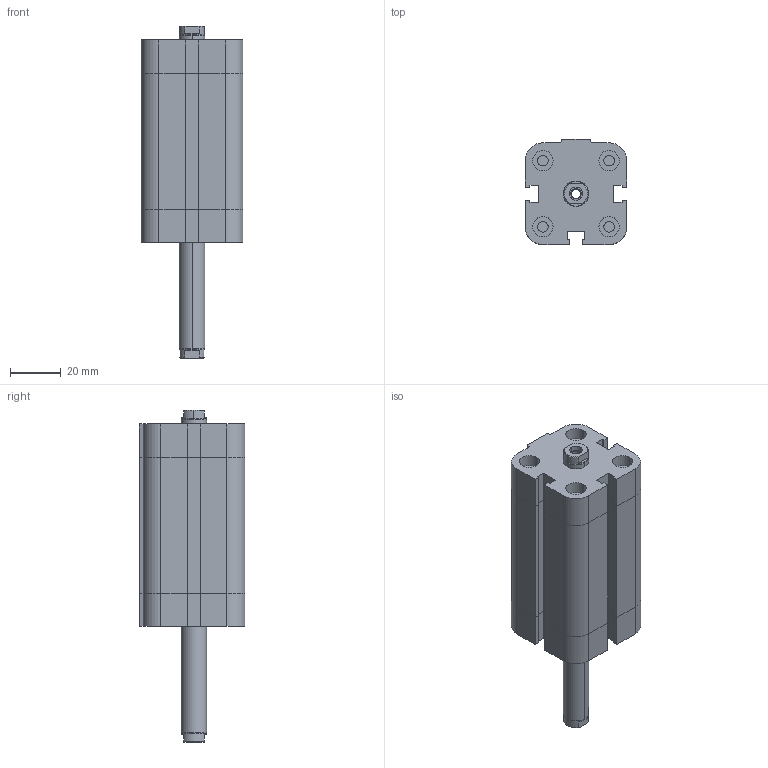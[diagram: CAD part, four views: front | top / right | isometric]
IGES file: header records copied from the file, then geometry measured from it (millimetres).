
Global section: file name: No Iges File Name specified; native system: Autodesk Inventor 2009; preprocessor: AutoDesk Inventor Iges Exporter R2009; author: maffial1; date: 20090420.201201; units: millimetre
Bounding box: 40 x 41.5 x 130.5 mm (x, y, z)
Volume: 116046.6 mm3; surface area: 29024.2 mm2
Topology: 2 solids, 2 shells, 204 faces, 456 edges, 278 vertices
Faces by surface type: plane 114, bspline 44, revolution 20, cylinder 18, cone 8
